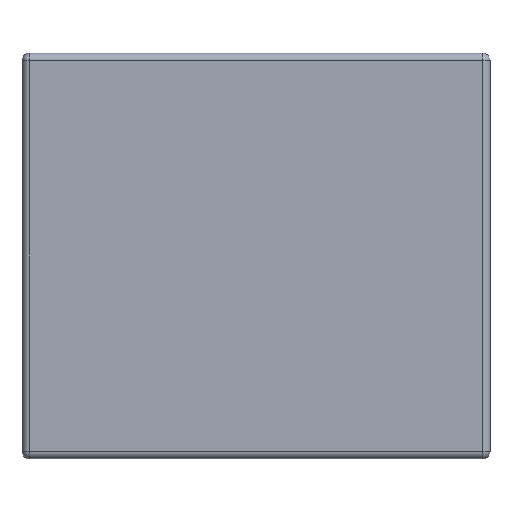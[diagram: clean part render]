
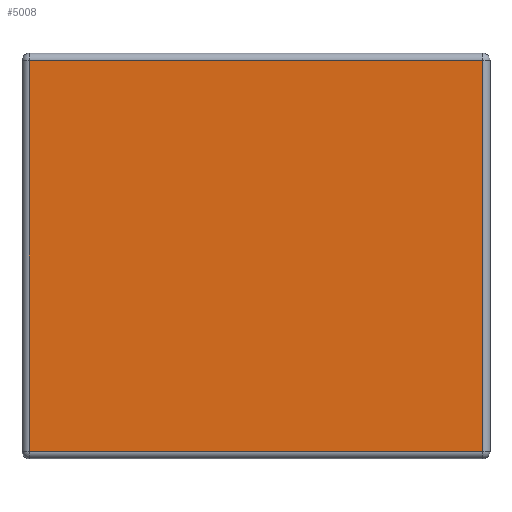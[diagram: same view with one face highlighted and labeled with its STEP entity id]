
A CAD part, front view. The second image highlights one B-rep face of the part: STEP entity #5008.
In plain terms, the highlighted planar face has unit normal (0, -1, 0).
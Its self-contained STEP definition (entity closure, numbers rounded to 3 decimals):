
#261 = CARTESIAN_POINT ( 'NONE',  ( 0., 0., 0. ) ) ;
#493 = EDGE_CURVE ( 'NONE', #12675, #10144, #10252, .T. ) ;
#1385 = CARTESIAN_POINT ( 'NONE',  ( -75., 0., 62.6 ) ) ;
#1390 = ORIENTED_EDGE ( 'NONE', *, *, #493, .T. ) ;
#1525 = CARTESIAN_POINT ( 'NONE',  ( -72.6, 0., -62.6 ) ) ;
#2952 = VECTOR ( 'NONE', #6351, 1000. ) ;
#3034 = VERTEX_POINT ( 'NONE', #1525 ) ;
#3562 = LINE ( 'NONE', #8558, #12382 ) ;
#3957 = FACE_OUTER_BOUND ( 'NONE', #4246, .T. ) ;
#4246 = EDGE_LOOP ( 'NONE', ( #13190, #10131, #1390, #6735 ) ) ;
#4693 = EDGE_CURVE ( 'NONE', #7327, #12675, #10227, .T. ) ;
#5008 = ADVANCED_FACE ( 'NONE', ( #3957 ), #14314, .T. ) ;
#5372 = DIRECTION ( 'NONE',  ( 0., 0., -1. ) ) ;
#6003 = DIRECTION ( 'NONE',  ( 0., 0., -1. ) ) ;
#6051 = VECTOR ( 'NONE', #13285, 1000. ) ;
#6351 = DIRECTION ( 'NONE',  ( -1., 0., 0. ) ) ;
#6735 = ORIENTED_EDGE ( 'NONE', *, *, #16308, .T. ) ;
#7327 = VERTEX_POINT ( 'NONE', #11404 ) ;
#7680 = DIRECTION ( 'NONE',  ( 0., 0., 1. ) ) ;
#7845 = DIRECTION ( 'NONE',  ( 0., -1., 0. ) ) ;
#8089 = CARTESIAN_POINT ( 'NONE',  ( 0., 0., -62.6 ) ) ;
#8558 = CARTESIAN_POINT ( 'NONE',  ( -72.6, 0., 0. ) ) ;
#8827 = AXIS2_PLACEMENT_3D ( 'NONE', #261, #7845, #5372 ) ;
#9358 = LINE ( 'NONE', #8089, #6051 ) ;
#9506 = CARTESIAN_POINT ( 'NONE',  ( 72.6, 0., 65. ) ) ;
#10131 = ORIENTED_EDGE ( 'NONE', *, *, #4693, .T. ) ;
#10144 = VERTEX_POINT ( 'NONE', #16014 ) ;
#10227 = LINE ( 'NONE', #9506, #14005 ) ;
#10252 = LINE ( 'NONE', #1385, #2952 ) ;
#10999 = CARTESIAN_POINT ( 'NONE',  ( 72.6, 0., 62.6 ) ) ;
#11404 = CARTESIAN_POINT ( 'NONE',  ( 72.6, 0., -62.6 ) ) ;
#12382 = VECTOR ( 'NONE', #6003, 1000. ) ;
#12675 = VERTEX_POINT ( 'NONE', #10999 ) ;
#13190 = ORIENTED_EDGE ( 'NONE', *, *, #13575, .T. ) ;
#13285 = DIRECTION ( 'NONE',  ( 1., 0., 0. ) ) ;
#13575 = EDGE_CURVE ( 'NONE', #3034, #7327, #9358, .T. ) ;
#14005 = VECTOR ( 'NONE', #7680, 1000. ) ;
#14314 = PLANE ( 'NONE',  #8827 ) ;
#16014 = CARTESIAN_POINT ( 'NONE',  ( -72.6, 0., 62.6 ) ) ;
#16308 = EDGE_CURVE ( 'NONE', #10144, #3034, #3562, .T. ) ;
